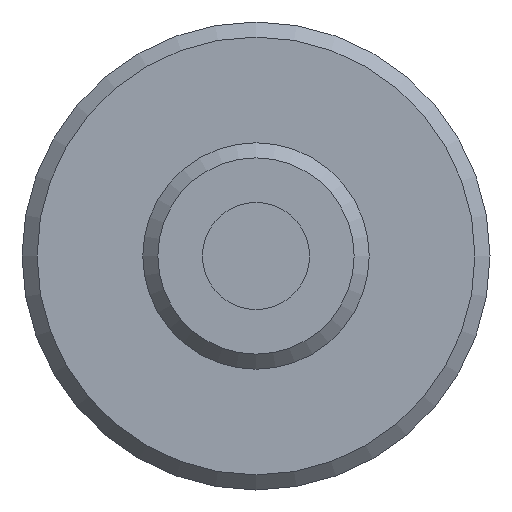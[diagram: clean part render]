
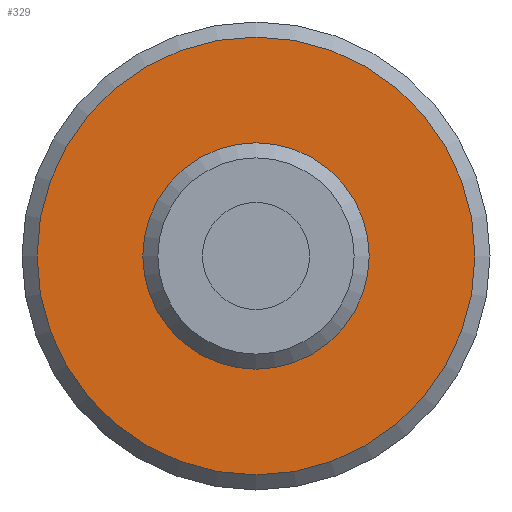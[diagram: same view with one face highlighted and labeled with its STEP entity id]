
A CAD part, front view. The second image highlights one B-rep face of the part: STEP entity #329.
In plain terms, the highlighted planar face has unit normal (0, -1, 0).
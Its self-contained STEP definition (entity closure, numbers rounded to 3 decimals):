
#30=FACE_BOUND('',#86,.T.);
#36=PLANE('',#385);
#55=FACE_OUTER_BOUND('',#85,.T.);
#85=EDGE_LOOP('',(#254));
#86=EDGE_LOOP('',(#255));
#148=CIRCLE('',#384,7.5);
#149=CIRCLE('',#386,14.5);
#173=VERTEX_POINT('',#575);
#174=VERTEX_POINT('',#579);
#202=EDGE_CURVE('',#173,#173,#148,.T.);
#204=EDGE_CURVE('',#174,#174,#149,.T.);
#254=ORIENTED_EDGE('',*,*,#204,.F.);
#255=ORIENTED_EDGE('',*,*,#202,.T.);
#329=ADVANCED_FACE('',(#55,#30),#36,.T.);
#384=AXIS2_PLACEMENT_3D('',#576,#457,#458);
#385=AXIS2_PLACEMENT_3D('',#578,#460,#461);
#386=AXIS2_PLACEMENT_3D('',#580,#462,#463);
#457=DIRECTION('center_axis',(0.,1.,0.));
#458=DIRECTION('ref_axis',(1.,0.,0.));
#460=DIRECTION('center_axis',(0.,-1.,0.));
#461=DIRECTION('ref_axis',(0.,0.,-1.));
#462=DIRECTION('center_axis',(0.,1.,0.));
#463=DIRECTION('ref_axis',(1.,0.,0.));
#575=CARTESIAN_POINT('',(0.,20.,-7.5));
#576=CARTESIAN_POINT('Origin',(0.,20.,0.));
#578=CARTESIAN_POINT('Origin',(0.,20.,14.5));
#579=CARTESIAN_POINT('',(0.,20.,-14.5));
#580=CARTESIAN_POINT('Origin',(0.,20.,0.));
